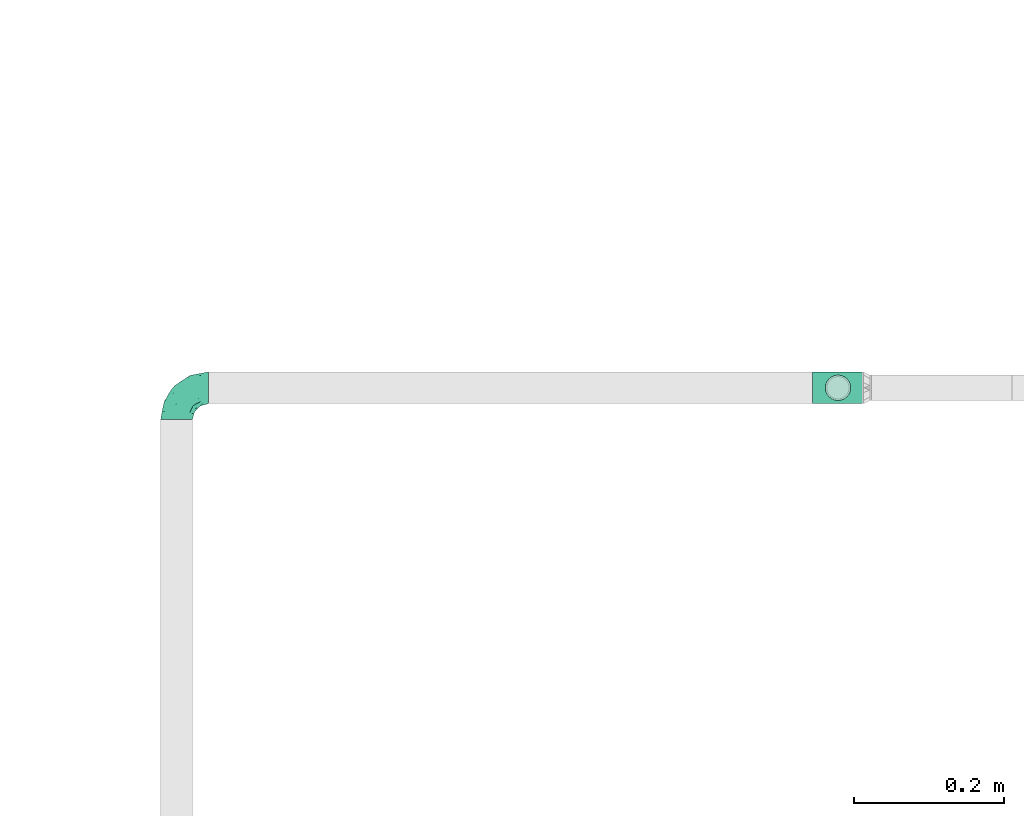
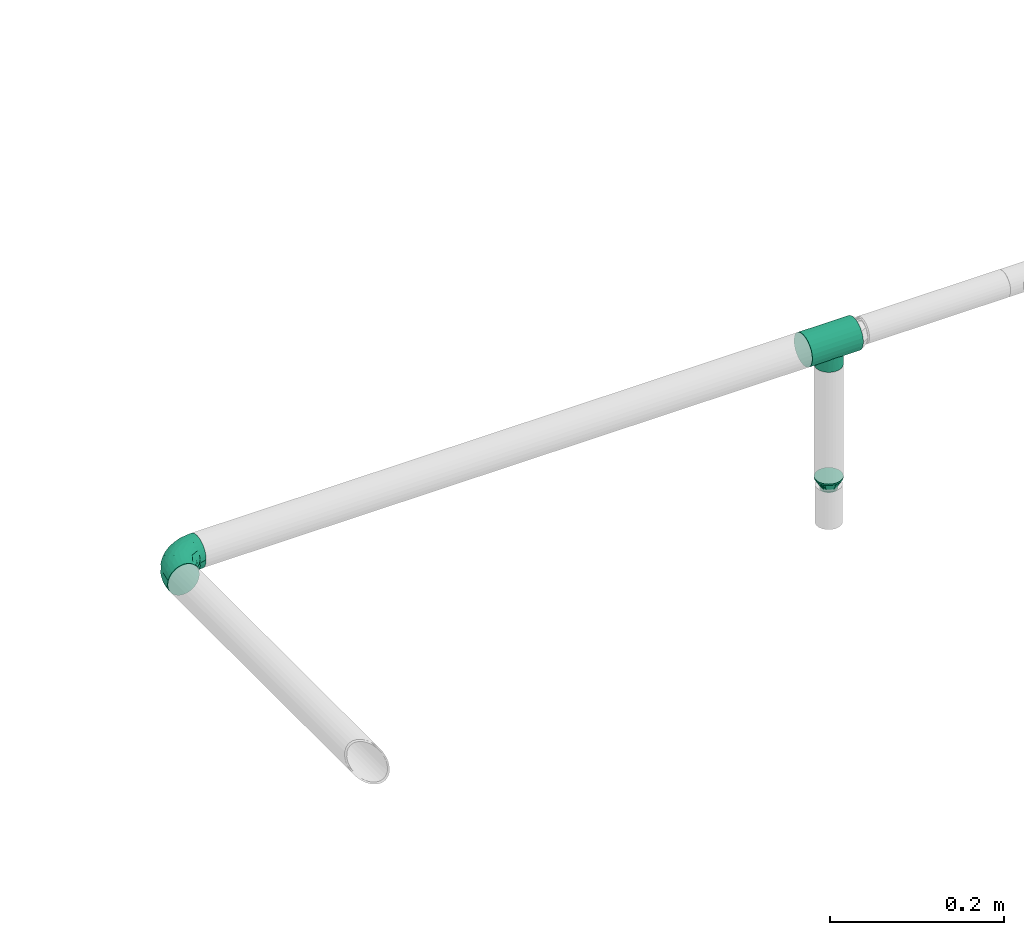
# One storey, part 67 of 95: 3 flow fittings.
"""IFC2X3 building model written with IfcOpenShell, lengths in millimetres."""

from ifc_helpers import new_model, entity, si_unit, converted_unit, derived_unit, direction, frame, origin_with_axes, place, context, subcontext, project, spatial, open_shell, surface_model, source, transform, mapped, type_object, element, save


model = new_model("IFC2X3")

# Units and contexts
model_context = context("Model", 3, precision=0.01, world=frame((0.0, 4.29681676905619e-09, 0.0)), true_north=direction((4.01073788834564e-13, 1.0)))
plan_context = context("Plan", 3, precision=0.01, world=frame((0.0, 4.29681676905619e-09, 0.0)), true_north=direction((4.01073788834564e-13, 1.0)))
body_context = subcontext(model_context, "Body", "Model", "MODEL_VIEW")
ifc_project = project(units=[converted_unit("PLANEANGLEUNIT", "DEGREE", entity("IfcPositiveLengthMeasure", 0.0174532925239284), si_unit("PLANEANGLEUNIT", "RADIAN"), dimensions=[0, 0, 0, 0, 0, 0, 0]), si_unit("AREAUNIT", "SQUARE_METRE"), si_unit("LENGTHUNIT", "METRE", prefix="MILLI"), si_unit("MASSUNIT", "GRAM", prefix="KILO"), si_unit("POWERUNIT", "WATT"), si_unit("PRESSUREUNIT", "PASCAL"), si_unit("FORCEUNIT", "NEWTON", prefix="KILO"), si_unit("ELECTRICVOLTAGEUNIT", "VOLT"), si_unit("ELECTRICCURRENTUNIT", "AMPERE"), si_unit("THERMODYNAMICTEMPERATUREUNIT", "DEGREE_CELSIUS"), si_unit("TIMEUNIT", "SECOND"), si_unit("VOLUMEUNIT", "CUBIC_METRE"), derived_unit("LINEARVELOCITYUNIT", [(si_unit("LENGTHUNIT", "METRE"), 1), (si_unit("TIMEUNIT", "SECOND"), -1)]), derived_unit("VOLUMETRICFLOWRATEUNIT", [(si_unit("VOLUMEUNIT", "CUBIC_METRE"), 1), (si_unit("TIMEUNIT", "SECOND"), -1)]), derived_unit("THERMALTRANSMITTANCEUNIT", [(si_unit("POWERUNIT", "WATT"), 1), (si_unit("THERMODYNAMICTEMPERATUREUNIT", "KELVIN"), -1), (si_unit("AREAUNIT", "SQUARE_METRE"), -1)]), derived_unit("SOUNDPRESSUREUNIT", [(si_unit("PRESSUREUNIT", "PASCAL"), 1)])], contexts=[model_context, plan_context])

# Site, building, storey
site_placement = place(None, frame((0.0, -4.29681676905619e-09, 0.0), z_axis=(0.0, 0.0, 1.0), x_axis=(1.0, 0.0, 0.0)))
site = spatial("IfcSite", under=ifc_project, at=site_placement, CompositionType="ELEMENT")
building_placement = place(site_placement, frame((0.0, 4.29681676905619e-09, 0.0), z_axis=(0.0, 0.0, 1.0), x_axis=(1.0, 0.0, 0.0)))
building = spatial("IfcBuilding", under=site, at=building_placement, Name="mc-building", CompositionType="ELEMENT")
storey_placement = place(building_placement, frame((0.0, 0.0, 210900.0), z_axis=(0.0, 0.0, 1.0), x_axis=(1.0, 0.0, 0.0)))
storey = spatial("IfcBuildingStorey", under=building, at=storey_placement, Name="Nivå F", CompositionType="ELEMENT", Elevation=210900.0)

# Flow fittings
pipe_fitting_type_1 = type_object("IfcPipeFittingType", Name="magi_pipe_fe_tee_centric_90_NOR", PredefinedType="JUNCTION")
shared_shape_1 = source(origin_with_axes(), body_context, "Body", "SurfaceModel", [
    surface_model("IfcShellBasedSurfaceModel", [(-33.8, 0.0, -21.2), (-33.8, -5.48696, -20.47763), (-33.8, 5.48696, -20.47763), (-33.8, 10.6, -18.35974), (-33.8, 14.99066, -14.99066), (-33.8, -20.47763, 5.48696), (-33.8, 18.35974, -10.6), (-33.8, 10.6, 18.35974), (-33.8, -14.99066, -14.99066), (-33.8, -18.35974, -10.6), (-33.8, -10.6, -18.35974), (-33.8, -20.47763, -5.48696), (-33.8, -21.2, 0.0), (-33.8, 18.35974, 10.6), (-33.8, 20.47763, -5.48696), (-33.8, 20.47763, 5.48696), (-33.8, 21.2, 0.0), (-33.8, 14.99066, 14.99066), (-33.8, 5.48696, 20.47763), (-33.8, 0.0, 21.2), (-33.8, -18.35974, 10.6), (-33.8, -14.99066, 14.99066), (-33.8, -10.6, 18.35974), (-33.8, -5.48696, 20.47763), (33.8, 5.48696, -20.47763), (33.8, -5.48696, -20.47763), (33.8, 0.0, -21.2), (33.8, 14.99066, -14.99066), (33.8, 10.6, -18.35974), (33.8, 18.35974, -10.6), (33.8, 20.47763, -5.48696), (33.8, -21.2, 0.0), (33.8, -10.6, -18.35974), (33.8, -18.35974, -10.6), (33.8, -14.99066, -14.99066), (33.8, -20.47763, -5.48696), (33.8, -20.47763, 5.48696), (33.8, 21.2, 0.0), (33.8, 20.47763, 5.48696), (33.8, 18.35974, 10.6), (33.8, 10.6, 18.35974), (33.8, 14.99066, 14.99066), (33.8, 0.0, 21.2), (33.8, 5.48696, 20.47763), (33.8, -14.99066, 14.99066), (33.8, -18.35974, 10.6), (33.8, -10.6, 18.35974), (33.8, -5.48696, 20.47763), (16.9, -21.2, 0.0), (15.78624, -20.32327, 6.03364), (12.81343, -18.11115, 11.01935), (8.52479, -15.37862, 14.59239), (3.07939, -13.16482, 16.61708), (-16.9, -21.2, 0.0), (-15.78686, -20.32375, 6.032), (-8.52604, -15.37932, 14.59166), (-3.0848, -13.16609, 16.61608), (-12.81602, -18.11299, 11.01634), (3.07939, -13.16482, -16.61708), (12.81343, -18.11115, -11.01935), (8.52479, -15.37862, -14.59239), (15.78624, -20.32327, -6.03364), (-3.0848, -13.16609, -16.61608), (-8.52604, -15.37932, -14.59166), (-12.81602, -18.11299, -11.01634), (-15.78686, -20.32375, -6.032), (4.37404, -31.8, -16.32415), (-16.9, -31.8, 0.0), (0.0, -31.8, -16.9), (14.63583, -31.8, -8.45), (8.45, -31.8, -14.63583), (16.32415, -31.8, -4.37404), (11.9501, -31.8, -11.9501), (-11.9501, -31.8, -11.9501), (-8.45, -31.8, -14.63583), (-4.37404, -31.8, -16.32415), (-14.63583, -31.8, -8.45), (-16.32415, -31.8, -4.37404), (16.9, -31.8, 0.0), (8.45, -31.8, 14.63583), (16.32415, -31.8, 4.37404), (14.63583, -31.8, 8.45), (-8.45, -31.8, 14.63583), (11.9501, -31.8, 11.9501), (4.37404, -31.8, 16.32415), (-16.32415, -31.8, 4.37404), (-11.9501, -31.8, 11.9501), (-14.63583, -31.8, 8.45), (0.0, -31.8, 16.9), (-4.37404, -31.8, 16.32415), (-16.34343, -20.76188, 3.016), (16.34312, -20.76163, 3.01682), (-0.00271, -13.16546, 16.61658), (16.34312, -20.76163, -3.01682), (-0.00271, -13.16546, -16.61658), (-16.34343, -20.76188, -3.016)], [open_shell([[[0, 1, 2]], [[3, 2, 4]], [[5, 2, 1]], [[4, 2, 6]], [[6, 2, 7]], [[8, 9, 10]], [[1, 10, 9]], [[9, 11, 1]], [[12, 1, 11]], [[5, 1, 12]], [[13, 14, 6]], [[13, 15, 16]], [[6, 7, 13]], [[5, 7, 2]], [[17, 13, 7]], [[18, 7, 19]], [[20, 21, 5]], [[22, 5, 21]], [[23, 19, 22]], [[7, 5, 22]], [[22, 19, 7]], [[16, 14, 13]], [[24, 25, 26]], [[27, 24, 28]], [[29, 30, 24]], [[29, 24, 27]], [[31, 24, 30]], [[32, 33, 34]], [[33, 32, 25]], [[33, 31, 35]], [[31, 33, 25]], [[25, 24, 31]], [[30, 36, 31]], [[37, 38, 39]], [[37, 39, 40]], [[37, 40, 36]], [[40, 39, 41]], [[42, 40, 43]], [[36, 44, 45]], [[44, 36, 46]], [[46, 42, 47]], [[46, 36, 40]], [[40, 42, 46]], [[37, 36, 30]], [[31, 36, 48]], [[49, 48, 36]], [[36, 45, 49]], [[45, 44, 50]], [[51, 50, 44]], [[52, 51, 44]], [[44, 46, 52]], [[45, 50, 49]], [[53, 54, 5]], [[5, 12, 53]], [[54, 20, 5]], [[55, 56, 21]], [[20, 57, 21]], [[57, 20, 54]], [[21, 57, 55]], [[56, 22, 21]], [[52, 22, 56]], [[19, 47, 42]], [[23, 46, 47]], [[18, 42, 43]], [[39, 38, 15]], [[17, 40, 41]], [[13, 41, 39]], [[43, 40, 7]], [[16, 38, 37]], [[22, 46, 23]], [[23, 47, 19]], [[18, 19, 42]], [[43, 7, 18]], [[7, 40, 17]], [[13, 17, 41]], [[15, 13, 39]], [[38, 16, 15]], [[46, 22, 52]], [[6, 30, 29]], [[14, 37, 30]], [[4, 29, 27]], [[26, 25, 1]], [[2, 28, 24]], [[0, 24, 26]], [[27, 28, 3]], [[10, 25, 32]], [[16, 37, 14]], [[14, 30, 6]], [[4, 6, 29]], [[27, 3, 4]], [[3, 28, 2]], [[0, 2, 24]], [[1, 0, 26]], [[25, 10, 1]], [[32, 58, 10]], [[34, 59, 60]], [[59, 34, 33]], [[60, 58, 34]], [[34, 58, 32]], [[35, 31, 48]], [[35, 61, 33]], [[61, 35, 48]], [[33, 61, 59]], [[62, 63, 8]], [[8, 64, 9]], [[64, 8, 63]], [[62, 8, 10]], [[65, 53, 11]], [[65, 11, 9]], [[11, 53, 12]], [[65, 9, 64]], [[58, 62, 10]], [[66, 67, 68]], [[69, 66, 70]], [[69, 71, 66]], [[69, 70, 72]], [[67, 66, 71]], [[68, 73, 74]], [[74, 75, 68]], [[76, 67, 77]], [[73, 68, 76]], [[67, 76, 68]], [[71, 78, 67]], [[79, 78, 80]], [[79, 80, 81]], [[82, 67, 79]], [[79, 81, 83]], [[82, 79, 84]], [[85, 86, 87]], [[86, 85, 82]], [[82, 88, 89]], [[85, 67, 82]], [[84, 88, 82]], [[79, 67, 78]], [[85, 90, 67]], [[57, 87, 86]], [[85, 87, 54]], [[86, 82, 55]], [[85, 54, 90]], [[90, 53, 67]], [[54, 87, 57]], [[91, 49, 80]], [[55, 89, 56]], [[55, 57, 86]], [[88, 52, 92]], [[55, 82, 89]], [[52, 88, 84]], [[79, 51, 84]], [[50, 83, 81]], [[83, 51, 79]], [[81, 80, 49]], [[83, 50, 51]], [[51, 52, 84]], [[78, 91, 80]], [[49, 50, 81]], [[91, 78, 48]], [[88, 56, 89]], [[92, 56, 88]], [[71, 93, 78]], [[59, 69, 72]], [[71, 69, 61]], [[72, 70, 60]], [[93, 48, 78]], [[61, 69, 59]], [[60, 66, 58]], [[60, 59, 72]], [[68, 62, 94]], [[60, 70, 66]], [[95, 67, 53]], [[95, 65, 77]], [[71, 61, 93]], [[75, 62, 68]], [[65, 76, 77]], [[73, 76, 64]], [[68, 58, 66]], [[75, 63, 62]], [[63, 75, 74]], [[74, 73, 63]], [[63, 73, 64]], [[64, 76, 65]], [[67, 95, 77]], [[94, 58, 68]]])]),
])
flow_fitting_1_placement = place(storey_placement, frame((521600.0, 456820.05824, 2600.0), z_axis=(0.0, -1.0, 0.0), x_axis=(1.0, 0.0, 0.0)))
element("IfcFlowFitting", 1, at=flow_fitting_1_placement, inside=storey, type_object=pipe_fitting_type_1, Name="magi_pipe_fe_tee_centric_90_NOR", context=body_context, shape_type="MappedRepresentation", body=[
    mapped(shared_shape_1, transform((0.0, 0.0, 0.0), scale=1.0)),
])
pipe_fitting_type_2 = type_object("IfcPipeFittingType", Name="magi_pipe_fe_elbow_short_001", PredefinedType="BEND")
shared_shape_2 = source(origin_with_axes(), body_context, "Body", "SurfaceModel", [
    surface_model("IfcShellBasedSurfaceModel", [(-42.4, 10.6, -18.35974), (-42.4, 5.48696, -20.47763), (-42.4, 0.0, -21.2), (-42.4, 14.99066, -14.99066), (-42.4, 20.47763, -5.48696), (-42.4, 18.35974, -10.6), (-42.4, -14.99066, 14.99066), (-42.4, -21.2, 0.0), (-42.4, -10.6, -18.35974), (-42.4, -14.99066, -14.99066), (-42.4, -5.48696, -20.47763), (-42.4, -18.35974, -10.6), (-42.4, -20.47763, -5.48696), (-42.4, 10.6, 18.35974), (-42.4, 20.47763, 5.48696), (-42.4, 18.35974, 10.6), (-42.4, 14.99066, 14.99066), (-42.4, 5.48696, 20.47763), (-42.4, 0.0, 21.2), (-42.4, -20.47763, 5.48696), (-42.4, -18.35974, 10.6), (-42.4, -10.6, 18.35974), (-42.4, -5.48696, 20.47763), (-42.4, 21.2, 0.0), (0.0, 42.4, -21.2), (-5.48696, 42.4, -20.47763), (-10.6, 42.4, -18.35974), (-14.99066, 42.4, -14.99066), (-18.35974, 42.4, -10.6), (-20.47763, 42.4, -5.48696), (21.2, 42.4, 0.0), (5.48696, 42.4, -20.47763), (14.99066, 42.4, -14.99066), (10.6, 42.4, -18.35974), (18.35974, 42.4, -10.6), (20.47763, 42.4, -5.48696), (14.99066, 42.4, 14.99066), (-20.47763, 42.4, 5.48696), (-10.6, 42.4, 18.35974), (-14.99066, 42.4, 14.99066), (-18.35974, 42.4, 10.6), (-5.48696, 42.4, 20.47763), (0.0, 42.4, 21.2), (18.35974, 42.4, 10.6), (20.47763, 42.4, 5.48696), (5.48696, 42.4, 20.47763), (10.6, 42.4, 18.35974), (-21.2, 42.4, 0.0), (-31.10239, -16.47009, 11.90111), (-27.83957, -12.231, 15.79732), (-30.23067, -18.77937, 0.0), (-18.74048, -13.50096, 10.69998), (-28.17586, -18.50359, 6.61185), (18.50359, 28.17586, 6.61185), (14.95929, 16.60735, 5.43468), (16.35874, 18.06133, 0.0), (-20.72313, 33.83635, 9.21426), (-17.70981, 33.00599, 13.92769), (-31.16033, -8.01664, 19.07348), (-32.38682, -2.80842, 20.83743), (-29.68688, 3.24967, 21.16387), (-7.74467, -9.46536, 0.0), (-16.60735, -14.95929, 5.43468), (-18.06133, -16.35874, 0.0), (-16.37932, -5.14532, 17.61254), (-21.10659, -0.19025, 20.54817), (-1.82445, -3.58377, 9.55223), (-0.35533, 0.43745, 12.66367), (-7.20655, -5.07682, 13.06146), (-33.14056, 17.6728, 13.91288), (-7.36799, 20.84806, 21.16196), (-15.70315, 15.70315, 20.68489), (-12.62356, 9.26422, 21.0908), (-36.67879, 12.83836, 17.27427), (-7.91358, 36.5686, 19.85759), (-2.90555, 31.71221, 21.14793), (-33.84689, 20.71971, 9.21285), (-33.51649, 22.58113, 4.66115), (-26.3226, 26.3226, 7.92474), (-32.67995, 8.31454, 20.02643), (-5.53379, 14.19921, 20.81623), (-10.53385, 3.88918, 19.79653), (-2.16577, 11.45378, 19.48254), (-3.78693, 3.78693, 17.3328), (12.231, 27.83957, 15.79732), (13.50096, 18.74047, 10.69998), (16.47009, 31.10239, 11.90111), (-22.53806, 14.38475, 19.60876), (-23.29615, 9.08095, 20.82061), (2.80842, 32.38682, 20.83743), (8.01664, 31.16033, 19.07348), (5.14532, 16.37932, 17.61254), (18.77937, 30.23067, 0.0), (-20.80278, 5.19491, 21.19095), (-19.62579, 22.38752, 17.42006), (-29.19336, 14.39093, 17.85259), (-22.31569, 34.20044, 4.54807), (-26.56962, 27.80621, 3.73106), (9.67657, 17.17133, 14.49993), (-24.04026, 31.8, 0.0), (-9.16861, 28.72652, 20.19004), (-12.09761, 21.9456, 20.37969), (-15.36991, 27.40112, 17.818), (-16.88976, 20.52477, 19.2896), (-12.95169, 35.54896, 17.36222), (-17.17133, -9.67657, 14.49993), (-21.98655, 28.10245, 11.99898), (-22.34699, 23.67592, 15.01692), (-27.22822, 22.77969, 11.82161), (0.19025, 21.10658, 20.54817), (4.8276, 7.36347, 13.42842), (-10.06209, -9.46364, 9.95114), (1.25876, -2.7536, 5.73797), (6.43781, 3.77591, 7.40371), (6.57528, 2.20066, 3.17705), (10.91934, 8.84313, 5.00748), (10.64415, 10.99764, 8.89767), (-31.8, 24.04026, 0.0), (-5.71381, -8.43063, 6.15529), (2.57199, -2.57199, 0.0), (9.46536, 7.74467, 0.0), (-17.17133, -9.67657, -14.49993), (-27.83957, -12.231, -15.79732), (-16.37932, -5.14532, -17.61254), (-18.74048, -13.50096, -10.69998), (-33.00599, 17.70981, -13.92769), (-35.54896, 12.95169, -17.36222), (-34.20044, 22.31569, -4.54807), (-28.17586, -18.50359, -6.61185), (-26.3226, 26.3226, -7.92474), (-33.83635, 20.72313, -9.21426), (-16.60735, -14.95929, -5.43468), (-20.52477, 16.88976, -19.2896), (-21.9456, 12.0976, -20.37969), (-27.40112, 15.36991, -17.818), (-12.83836, 36.67879, -17.27427), (-17.6728, 33.14056, -13.91288), (8.01664, 31.16033, -19.07348), (5.14532, 16.37932, -17.61254), (0.19025, 21.10658, -20.54817), (-36.5686, 7.91358, -19.85759), (-31.10239, -16.47009, -11.90111), (-31.16033, -8.01664, -19.07348), (-14.38475, 22.53806, -19.60876), (-8.31454, 32.67995, -20.02643), (-9.08095, 23.29615, -20.82061), (-32.38682, -2.80842, -20.83743), (-20.84806, 7.36799, -21.16196), (-15.70315, 15.70314, -20.68489), (-9.26422, 12.62356, -21.0908), (-31.71221, 2.90555, -21.14793), (-22.58113, 33.51649, -4.66115), (-20.71971, 33.84689, -9.21285), (-28.72652, 9.16861, -20.19004), (-27.80621, 26.56962, -3.73106), (-5.19491, 20.80278, -21.19095), (-22.38752, 19.62579, -17.42006), (-14.39093, 29.19336, -17.85259), (2.80842, 32.38682, -20.83743), (-3.24967, 29.68688, -21.16387), (16.47009, 31.10239, -11.90111), (12.231, 27.83957, -15.79732), (6.57528, 2.20067, -3.17705), (10.91934, 8.84313, -5.00749), (-14.19921, 5.53379, -20.81623), (-3.88918, 10.53385, -19.79653), (-11.45378, 2.16577, -19.48254), (1.25876, -2.7536, -5.73797), (-5.71381, -8.43063, -6.15529), (-1.82445, -3.58377, -9.55223), (13.50096, 18.74048, -10.69998), (18.50359, 28.17586, -6.61185), (14.95929, 16.60735, -5.43468), (-28.10245, 21.98655, -11.99898), (9.67657, 17.17133, -14.49993), (10.64415, 10.99764, -8.89767), (4.8276, 7.36347, -13.42842), (-23.67592, 22.34699, -15.01692), (-22.77969, 27.22822, -11.82161), (-21.10658, -0.19025, -20.54817), (-3.78693, 3.78693, -17.3328), (-7.20655, -5.07682, -13.06146), (-10.06209, -9.46364, -9.95113), (-0.35533, 0.43745, -12.66367), (6.43781, 3.77591, -7.40371)], [open_shell([[[0, 1, 2]], [[3, 0, 2]], [[4, 5, 3]], [[2, 4, 3]], [[6, 2, 7]], [[8, 9, 10]], [[11, 10, 9]], [[12, 7, 11]], [[2, 10, 11]], [[11, 7, 2]], [[6, 4, 2]], [[13, 14, 4]], [[15, 14, 16]], [[4, 6, 13]], [[16, 14, 13]], [[17, 13, 18]], [[19, 20, 7]], [[7, 20, 6]], [[21, 22, 6]], [[18, 6, 22]], [[6, 18, 13]], [[23, 4, 14]], [[24, 25, 26]], [[24, 26, 27]], [[27, 28, 29]], [[27, 29, 24]], [[24, 29, 30]], [[31, 32, 33]], [[31, 24, 32]], [[34, 30, 35]], [[32, 24, 34]], [[24, 30, 34]], [[29, 36, 30]], [[29, 37, 38]], [[39, 37, 40]], [[36, 29, 38]], [[38, 37, 39]], [[41, 42, 38]], [[30, 43, 44]], [[36, 43, 30]], [[36, 45, 46]], [[45, 36, 42]], [[38, 42, 36]], [[37, 29, 47]], [[6, 48, 49]], [[19, 7, 50]], [[51, 48, 52]], [[53, 54, 55]], [[48, 6, 20]], [[19, 52, 20]], [[40, 56, 57]], [[49, 21, 6]], [[49, 58, 21]], [[18, 59, 60]], [[61, 62, 63]], [[58, 64, 65]], [[66, 67, 68]], [[15, 16, 69]], [[70, 71, 72]], [[13, 73, 16]], [[22, 59, 18]], [[41, 74, 75]], [[18, 60, 17]], [[15, 69, 76]], [[16, 73, 69]], [[23, 14, 77]], [[14, 15, 76]], [[77, 76, 78]], [[17, 79, 13]], [[80, 81, 82]], [[68, 83, 64]], [[84, 36, 46]], [[85, 86, 84]], [[87, 79, 88]], [[21, 58, 22]], [[42, 89, 45]], [[53, 44, 43]], [[42, 41, 75]], [[84, 90, 91]], [[43, 86, 53]], [[92, 44, 53]], [[86, 43, 36]], [[90, 46, 45]], [[53, 55, 92]], [[88, 93, 72]], [[54, 53, 85]], [[87, 94, 95]], [[78, 96, 97]], [[98, 84, 91]], [[99, 96, 47]], [[79, 17, 60]], [[96, 78, 56]], [[62, 52, 63]], [[57, 39, 40]], [[100, 70, 75]], [[101, 102, 103]], [[19, 50, 52]], [[104, 38, 39]], [[74, 41, 38]], [[57, 102, 104]], [[105, 64, 49]], [[90, 84, 46]], [[40, 37, 56]], [[56, 106, 57]], [[102, 57, 107]], [[95, 107, 69]], [[76, 108, 78]], [[100, 101, 70]], [[89, 75, 109]], [[64, 58, 49]], [[63, 52, 50]], [[59, 58, 65]], [[105, 49, 51]], [[64, 83, 81]], [[89, 90, 45]], [[30, 44, 92]], [[109, 82, 91]], [[109, 91, 90]], [[91, 83, 110]], [[111, 68, 105]], [[66, 68, 111]], [[62, 51, 52]], [[66, 112, 113]], [[114, 115, 113]], [[98, 85, 84]], [[52, 48, 20]], [[49, 48, 51]], [[84, 86, 36]], [[53, 86, 85]], [[88, 79, 60]], [[73, 79, 95]], [[96, 56, 37]], [[78, 108, 106]], [[87, 103, 94]], [[100, 74, 104]], [[108, 69, 107]], [[78, 97, 77]], [[88, 72, 71]], [[109, 75, 70]], [[81, 72, 65]], [[70, 72, 80]], [[75, 89, 42]], [[90, 89, 109]], [[58, 59, 22]], [[60, 59, 65]], [[67, 83, 68]], [[110, 113, 116]], [[88, 60, 93]], [[87, 88, 71]], [[103, 87, 71]], [[79, 87, 95]], [[101, 103, 71]], [[94, 103, 102]], [[47, 96, 37]], [[96, 99, 97]], [[99, 117, 97]], [[97, 117, 77]], [[23, 77, 117]], [[14, 76, 77]], [[60, 65, 93]], [[65, 72, 93]], [[70, 101, 71]], [[102, 101, 100]], [[69, 108, 76]], [[106, 108, 107]], [[57, 106, 107]], [[78, 106, 56]], [[57, 104, 39]], [[100, 104, 102]], [[102, 107, 94]], [[95, 94, 107]], [[64, 81, 65]], [[82, 81, 83]], [[91, 82, 83]], [[80, 82, 109]], [[70, 80, 109]], [[81, 80, 72]], [[79, 73, 13]], [[69, 73, 95]], [[104, 74, 38]], [[75, 74, 100]], [[62, 61, 118]], [[111, 62, 118]], [[113, 115, 116]], [[119, 118, 61]], [[111, 105, 51]], [[113, 112, 114]], [[120, 55, 54]], [[68, 64, 105]], [[91, 110, 98]], [[116, 98, 110]], [[62, 111, 51]], [[66, 111, 118]], [[112, 66, 118]], [[67, 113, 110]], [[118, 119, 112]], [[114, 112, 119]], [[119, 120, 114]], [[115, 120, 54]], [[120, 115, 114]], [[116, 54, 85]], [[54, 116, 115]], [[116, 85, 98]], [[113, 67, 66]], [[83, 67, 110]], [[121, 122, 123]], [[122, 121, 124]], [[5, 125, 3]], [[3, 126, 0]], [[117, 127, 23]], [[50, 12, 128]], [[127, 129, 130]], [[128, 131, 63]], [[132, 133, 134]], [[27, 135, 136]], [[137, 138, 139]], [[0, 140, 1]], [[128, 11, 141]], [[142, 8, 10]], [[128, 63, 50]], [[5, 4, 130]], [[11, 9, 141]], [[143, 144, 145]], [[146, 10, 2]], [[147, 148, 149]], [[11, 128, 12]], [[124, 141, 122]], [[150, 2, 1]], [[151, 152, 129]], [[125, 134, 126]], [[153, 147, 150]], [[127, 154, 129]], [[145, 155, 149]], [[47, 29, 151]], [[143, 156, 157]], [[152, 29, 28]], [[24, 158, 159]], [[122, 9, 8]], [[27, 26, 135]], [[144, 26, 25]], [[32, 160, 161]], [[24, 31, 158]], [[120, 162, 163]], [[130, 125, 5]], [[27, 136, 28]], [[1, 140, 150]], [[33, 161, 137]], [[142, 122, 8]], [[24, 159, 25]], [[164, 165, 166]], [[167, 168, 169]], [[34, 160, 32]], [[161, 33, 32]], [[170, 160, 171]], [[131, 128, 124]], [[30, 92, 35]], [[35, 92, 171]], [[172, 171, 55]], [[35, 171, 34]], [[144, 25, 159]], [[130, 173, 125]], [[174, 175, 176]], [[136, 152, 28]], [[33, 137, 31]], [[122, 142, 123]], [[134, 125, 177]], [[157, 177, 136]], [[152, 178, 129]], [[153, 133, 147]], [[146, 150, 179]], [[146, 142, 10]], [[7, 12, 50]], [[179, 166, 123]], [[179, 123, 142]], [[123, 180, 181]], [[138, 137, 161]], [[55, 171, 92]], [[158, 137, 139]], [[174, 161, 170]], [[138, 180, 165]], [[180, 138, 176]], [[124, 121, 182]], [[176, 183, 180]], [[61, 131, 168]], [[169, 168, 182]], [[172, 170, 171]], [[122, 141, 9]], [[128, 141, 124]], [[171, 160, 34]], [[161, 160, 170]], [[145, 144, 159]], [[135, 144, 157]], [[127, 130, 4]], [[129, 178, 173]], [[143, 132, 156]], [[153, 140, 126]], [[178, 136, 177]], [[129, 154, 151]], [[145, 149, 148]], [[179, 150, 147]], [[165, 149, 139]], [[147, 149, 164]], [[150, 146, 2]], [[142, 146, 179]], [[137, 158, 31]], [[159, 158, 139]], [[174, 138, 161]], [[184, 169, 183]], [[145, 159, 155]], [[143, 145, 148]], [[132, 143, 148]], [[144, 143, 157]], [[133, 132, 148]], [[156, 132, 134]], [[23, 127, 4]], [[127, 117, 154]], [[117, 99, 154]], [[154, 99, 151]], [[47, 151, 99]], [[29, 152, 151]], [[159, 139, 155]], [[139, 149, 155]], [[147, 133, 148]], [[134, 133, 153]], [[136, 178, 152]], [[173, 178, 177]], [[125, 173, 177]], [[129, 173, 130]], [[125, 126, 3]], [[153, 126, 134]], [[134, 177, 156]], [[157, 156, 177]], [[138, 165, 139]], [[166, 165, 180]], [[123, 166, 180]], [[164, 166, 179]], [[147, 164, 179]], [[165, 164, 149]], [[144, 135, 26]], [[136, 135, 157]], [[126, 140, 0]], [[150, 140, 153]], [[182, 131, 124]], [[168, 119, 61]], [[119, 167, 162]], [[63, 131, 61]], [[172, 163, 175]], [[172, 55, 120]], [[123, 181, 121]], [[182, 121, 181]], [[175, 174, 170]], [[176, 138, 174]], [[169, 182, 181]], [[131, 182, 168]], [[183, 169, 181]], [[167, 169, 184]], [[162, 167, 184]], [[119, 168, 167]], [[163, 162, 184]], [[120, 119, 162]], [[175, 163, 184]], [[120, 163, 172]], [[176, 175, 184]], [[172, 175, 170]], [[180, 183, 181]], [[184, 183, 176]]])]),
])
flow_fitting_2_placement = place(storey_placement, frame((520719.73241, 456820.05824, 2600.0), z_axis=(0.0, 0.0, 1.0), x_axis=(-1.0, 0.0, 0.0)))
element("IfcFlowFitting", 2, at=flow_fitting_2_placement, inside=storey, type_object=pipe_fitting_type_2, Name="magi_pipe_fe_elbow_short_001", context=body_context, shape_type="MappedRepresentation", body=[
    mapped(shared_shape_2, transform((0.0, 0.0, 0.0), scale=1.0)),
])
pipe_fitting_type_3 = type_object("IfcPipeFittingType", Name="magi_pipe_fe_reducer_centric_short_NOR", PredefinedType="TRANSITION")
shared_shape_3 = source(origin_with_axes(), body_context, "Body", "SurfaceModel", [
    surface_model("IfcShellBasedSurfaceModel", [(14.4, -11.9501, -11.9501), (14.4, -8.45, -14.63583), (14.4, -4.37404, -16.32415), (14.4, 8.45, -14.63583), (14.4, 16.9, 0.0), (14.4, -14.63583, -8.45), (14.4, -16.32415, -4.37404), (14.4, -4.37404, 16.32415), (14.4, 4.37404, -16.32415), (14.4, 0.0, -16.9), (14.4, 14.63583, -8.45), (14.4, 16.32415, -4.37404), (14.4, 11.9501, -11.9501), (14.4, -16.32415, 4.37404), (14.4, -16.9, 0.0), (14.4, -11.9501, 11.9501), (14.4, -14.63583, 8.45), (14.4, -8.45, 14.63583), (14.4, 0.0, 16.9), (14.4, 16.32415, 4.37404), (14.4, 14.63583, 8.45), (14.4, 11.9501, 11.9501), (14.4, 8.45, 14.63583), (14.4, 4.37404, 16.32415), (12.4, 0.0, 16.9), (12.4, 14.63583, 8.45), (12.4, -4.37404, 16.32415), (12.4, -8.45, 14.63583), (12.4, -16.32415, 4.37404), (12.4, -14.63583, 8.45), (12.4, -11.9501, 11.9501), (12.4, 11.9501, 11.9501), (12.4, 8.45, 14.63583), (12.4, 4.37404, 16.32415), (12.4, 16.32415, 4.37404), (12.4, 16.9, 0.0), (12.4, 16.32415, -4.37404), (12.4, 8.45, -14.63583), (12.4, -11.9501, -11.9501), (12.4, -16.32415, -4.37404), (12.4, -14.63583, -8.45), (12.4, -4.37404, -16.32415), (12.4, -8.45, -14.63583), (12.4, 14.63583, -8.45), (12.4, 11.9501, -11.9501), (12.4, 4.37404, -16.32415), (12.4, 0.0, -16.9), (12.4, -16.9, 0.0), (-2.0, 0.0, 10.7), (-2.0, 10.33541, -2.76936), (-2.0, -2.76936, 10.33541), (-2.0, -5.35, 9.26647), (-2.0, -10.33541, 2.76936), (-2.0, -9.26647, 5.35), (-2.0, -7.56604, 7.56604), (-2.0, 10.33541, 2.76936), (-2.0, 5.35, 9.26647), (-2.0, 7.56604, 7.56604), (-2.0, 2.76936, 10.33541), (-2.0, 9.26647, 5.35), (-2.0, 10.7, 0.0), (-2.0, -10.33541, -2.76936), (-2.0, -9.26647, -5.35), (-2.0, -7.56604, -7.56604), (-2.0, -5.35, -9.26647), (-2.0, -2.76936, -10.33541), (-2.0, 9.26647, -5.35), (-2.0, 7.56604, -7.56604), (-2.0, 5.35, -9.26647), (-2.0, 2.76936, -10.33541), (-2.0, 0.0, -10.7), (-2.0, -10.7, 0.0), (0.0, -2.76936, -10.33541), (0.0, 0.0, -10.7), (0.0, -5.35, -9.26647), (0.0, -7.56604, -7.56604), (0.0, -10.33541, -2.76936), (0.0, 10.33541, -2.76936), (0.0, -9.26647, -5.35), (0.0, 0.0, 10.7), (0.0, 2.76936, -10.33541), (0.0, 5.35, -9.26647), (0.0, 9.26647, -5.35), (0.0, 7.56604, -7.56604), (0.0, -10.33541, 2.76936), (0.0, -10.7, 0.0), (0.0, -7.56604, 7.56604), (0.0, -9.26647, 5.35), (0.0, -2.76936, 10.33541), (0.0, -5.35, 9.26647), (0.0, 7.56604, 7.56604), (0.0, 9.26647, 5.35), (0.0, 10.33541, 2.76936), (0.0, 10.7, 0.0), (0.0, 5.35, 9.26647), (0.0, 2.76936, 10.33541), (12.4, -2.98753, -15.66253), (12.4, -5.97505, -14.42505), (0.0, -2.675, -9.26647), (12.4, 15.66253, -2.98753), (12.4, 14.42505, -5.97505), (0.0, 9.3625, -2.31662), (0.0, 2.675, -9.26647), (12.4, 5.97505, -14.42505), (12.4, 8.96258, -13.18758), (0.0, 6.6875, -6.94985), (12.4, -14.42505, -5.97505), (12.4, -15.66253, -2.98753), (0.0, -9.3625, -2.31662), (0.0, 8.025, -4.63324), (12.4, 13.18758, -8.96258), (12.4, 2.98753, -15.66253), (0.0, -6.6875, -6.94985), (12.4, -13.18758, -8.96258), (12.4, -8.96258, -13.18758), (0.0, 0.0, -9.26647), (0.0, -8.025, -4.63324), (12.4, 2.98753, 15.66253), (12.4, 5.97505, 14.42505), (0.0, 2.675, 9.26647), (12.4, -15.66253, 2.98753), (12.4, -14.42505, 5.97505), (0.0, -9.3625, 2.31662), (0.0, -2.675, 9.26647), (12.4, -5.97505, 14.42505), (12.4, -8.96258, 13.18758), (0.0, -6.6875, 6.94985), (12.4, 14.42505, 5.97505), (12.4, 15.66253, 2.98753), (0.0, 9.3625, 2.31662), (0.0, -8.025, 4.63324), (12.4, -13.18758, 8.96258), (12.4, -2.98753, 15.66253), (0.0, 6.6875, 6.94985), (12.4, 13.18758, 8.96258), (12.4, 8.96258, 13.18758), (0.0, 0.0, 9.26647), (0.0, 8.025, 4.63324)], [open_shell([[[0, 1, 2]], [[0, 2, 3]], [[3, 4, 0]], [[5, 0, 6]], [[0, 7, 6]], [[8, 3, 9]], [[3, 2, 9]], [[10, 11, 12]], [[3, 12, 11]], [[11, 4, 3]], [[13, 14, 6]], [[15, 16, 13]], [[7, 15, 13]], [[0, 4, 7]], [[17, 15, 7]], [[18, 7, 4]], [[19, 20, 18]], [[18, 4, 19]], [[21, 22, 20]], [[22, 18, 20]], [[23, 18, 22]], [[13, 6, 7]], [[24, 25, 26]], [[27, 26, 28]], [[28, 29, 30]], [[27, 28, 30]], [[28, 26, 25]], [[31, 25, 32]], [[24, 33, 32]], [[32, 25, 24]], [[28, 25, 34]], [[35, 36, 34]], [[37, 28, 34]], [[38, 39, 28]], [[40, 39, 38]], [[41, 42, 38]], [[38, 28, 37]], [[38, 37, 41]], [[43, 44, 36]], [[37, 36, 44]], [[45, 46, 37]], [[37, 34, 36]], [[37, 46, 41]], [[47, 28, 39]], [[35, 11, 36]], [[36, 10, 43]], [[37, 44, 3]], [[12, 44, 43]], [[45, 37, 8]], [[11, 10, 36]], [[35, 4, 11]], [[37, 3, 8]], [[3, 44, 12]], [[43, 10, 12]], [[45, 8, 9]], [[9, 46, 45]], [[46, 2, 41]], [[41, 1, 42]], [[40, 38, 5]], [[0, 38, 42]], [[39, 40, 6]], [[1, 0, 42]], [[41, 2, 1]], [[39, 6, 14]], [[6, 40, 5]], [[38, 0, 5]], [[39, 14, 47]], [[9, 2, 46]], [[47, 13, 28]], [[28, 16, 29]], [[27, 30, 17]], [[15, 30, 29]], [[26, 27, 7]], [[13, 16, 28]], [[47, 14, 13]], [[27, 17, 7]], [[17, 30, 15]], [[29, 16, 15]], [[26, 7, 18]], [[18, 24, 26]], [[24, 23, 33]], [[33, 22, 32]], [[25, 31, 20]], [[21, 31, 32]], [[34, 25, 19]], [[22, 21, 32]], [[33, 23, 22]], [[34, 19, 4]], [[19, 25, 20]], [[31, 21, 20]], [[34, 4, 35]], [[18, 23, 24]], [[48, 49, 50]], [[50, 49, 51]], [[52, 53, 54]], [[51, 52, 54]], [[49, 48, 55]], [[56, 57, 58]], [[57, 48, 58]], [[59, 55, 57]], [[57, 55, 48]], [[60, 49, 55]], [[49, 52, 51]], [[61, 52, 49]], [[62, 61, 63]], [[64, 61, 49]], [[63, 61, 64]], [[65, 64, 49]], [[66, 67, 49]], [[68, 49, 67]], [[69, 70, 68]], [[65, 49, 68]], [[68, 70, 65]], [[71, 52, 61]], [[72, 73, 74]], [[75, 74, 76]], [[76, 74, 77]], [[78, 75, 76]], [[76, 77, 79]], [[80, 81, 73]], [[81, 74, 73]], [[82, 77, 83]], [[81, 83, 77]], [[81, 77, 74]], [[84, 85, 76]], [[86, 87, 84]], [[88, 86, 84]], [[88, 76, 79]], [[89, 86, 88]], [[77, 90, 79]], [[91, 90, 92]], [[92, 77, 93]], [[94, 95, 90]], [[90, 77, 92]], [[79, 90, 95]], [[84, 76, 88]], [[60, 77, 49]], [[49, 82, 66]], [[68, 67, 81]], [[83, 67, 66]], [[69, 68, 80]], [[77, 82, 49]], [[60, 93, 77]], [[68, 81, 80]], [[81, 67, 83]], [[66, 82, 83]], [[69, 80, 73]], [[73, 70, 69]], [[70, 72, 65]], [[65, 74, 64]], [[62, 63, 78]], [[75, 63, 64]], [[61, 62, 76]], [[74, 75, 64]], [[65, 72, 74]], [[61, 76, 85]], [[76, 62, 78]], [[63, 75, 78]], [[61, 85, 71]], [[73, 72, 70]], [[71, 84, 52]], [[52, 87, 53]], [[51, 54, 89]], [[86, 54, 53]], [[50, 51, 88]], [[84, 87, 52]], [[71, 85, 84]], [[51, 89, 88]], [[89, 54, 86]], [[53, 87, 86]], [[50, 88, 79]], [[79, 48, 50]], [[48, 95, 58]], [[58, 94, 56]], [[59, 57, 91]], [[90, 57, 56]], [[55, 59, 92]], [[94, 90, 56]], [[58, 95, 94]], [[55, 92, 93]], [[92, 59, 91]], [[57, 90, 91]], [[55, 93, 60]], [[79, 95, 48]], [[31, 24, 44]], [[24, 30, 47]], [[44, 35, 31]], [[47, 46, 44]], [[46, 47, 38]], [[24, 47, 44]], [[89, 94, 93]], [[85, 89, 74]], [[81, 74, 93]], [[89, 93, 74]], [[96, 97, 98]], [[99, 100, 101]], [[102, 81, 103]], [[93, 35, 99]], [[104, 105, 44]], [[104, 81, 105]], [[106, 107, 108]], [[109, 110, 105]], [[103, 111, 102]], [[74, 98, 97]], [[112, 38, 113]], [[74, 114, 112]], [[107, 47, 85]], [[98, 115, 96]], [[102, 111, 115]], [[104, 103, 81]], [[113, 116, 112]], [[115, 111, 46]], [[99, 101, 93]], [[100, 109, 101]], [[108, 116, 106]], [[108, 107, 85]], [[44, 105, 110]], [[109, 100, 110]], [[115, 46, 96]], [[113, 106, 116]], [[38, 112, 114]], [[74, 97, 114]], [[117, 118, 119]], [[120, 121, 122]], [[123, 89, 124]], [[85, 47, 120]], [[125, 126, 30]], [[125, 89, 126]], [[127, 128, 129]], [[130, 131, 126]], [[124, 132, 123]], [[94, 119, 118]], [[133, 31, 134]], [[94, 135, 133]], [[128, 35, 93]], [[119, 136, 117]], [[123, 132, 136]], [[125, 124, 89]], [[134, 137, 133]], [[136, 132, 24]], [[120, 122, 85]], [[121, 130, 122]], [[129, 137, 127]], [[129, 128, 93]], [[30, 126, 131]], [[130, 121, 131]], [[136, 24, 117]], [[134, 127, 137]], [[31, 133, 135]], [[94, 118, 135]]])]),
])
flow_fitting_3_placement = place(storey_placement, frame((521600.0, 456820.05824, 2396.95199999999), z_axis=(1.0, 0.0, 0.0), x_axis=(0.0, 0.0, 1.0)))
element("IfcFlowFitting", 3, at=flow_fitting_3_placement, inside=storey, type_object=pipe_fitting_type_3, Name="magi_pipe_fe_reducer_centric_short_NOR", context=body_context, shape_type="MappedRepresentation", body=[
    mapped(shared_shape_3, transform((0.0, 0.0, 0.0), scale=1.0)),
])

save(model, "model.ifc")
